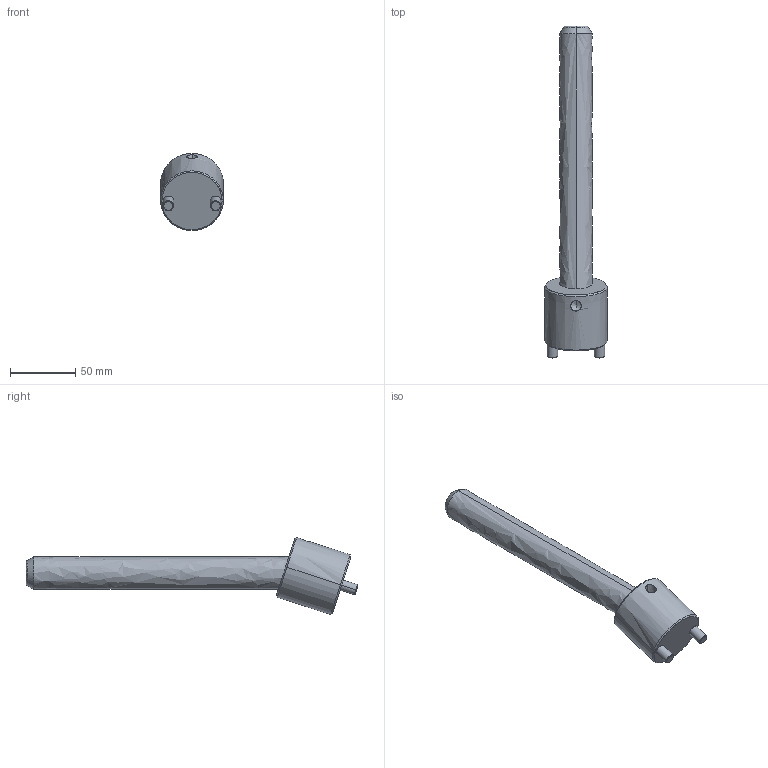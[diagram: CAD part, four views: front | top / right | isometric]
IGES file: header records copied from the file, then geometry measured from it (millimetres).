
Start section: START RECORD GO HERE.
Global section: file name: CI1825200.igs; native system: DASSAULT SYSTEMES CATIA V5 R20 - www.3ds.com; preprocessor: CATIA Version 5 Release 20 ; author: r.borello; organization: CFTORINO; date: 20190624.094657; units: millimetre
Bounding box: 48 x 253.84 x 58.94 mm (x, y, z)
Surface area: 33253.8 mm2 (no closed solid volume)
Topology: 0 solids, 0 shells, 39 faces, 162 edges, 160 vertices
Faces by surface type: revolution 32, plane 7
